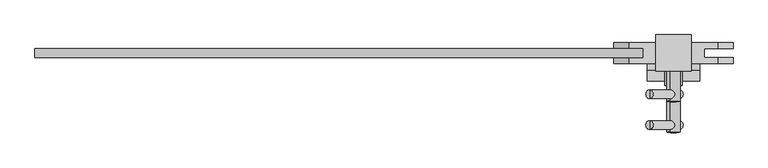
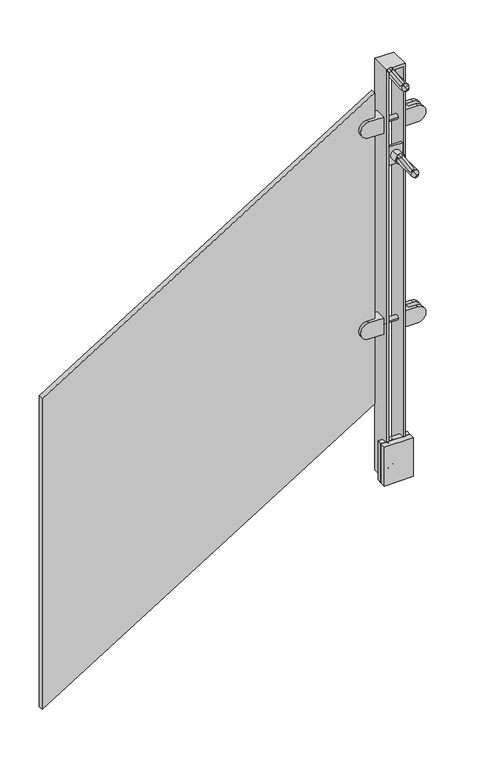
"""IFC4 building model written with IfcOpenShell, lengths in millimetres: proxy geometry, LIVERS_ICN - Glass Panel : LIVERS_ICN - Glass Panel."""

from ifc_helpers import new_model, si_unit, point, frame, origin, place, context, project, spatial, polyline, circle_curve, ellipse_curve, trimmed, outline, extrude, faceted_brep, source, transform, mapped, element, save
from ifc_brep_helpers import plane_surface, cylinder_surface, revolved_surface, advanced_brep


def building_element_proxy_ea71b500(model_context):
    return source(origin(), model_context, "Body", "SolidModel", [
        advanced_brep(
        [(1024.7594353, 60.3249609, 1242.0793507), (1031.4894099, 60.3249609, 1231.3091399), (1038.2193846, 60.3249609, 1220.5389291), (1024.7594353, 38.0999609, 1242.0793507), (1038.2193846, 38.0999609, 1220.5389291), (1031.4894099, 38.0999609, 1231.3091399)],
        [
            (0, 1),
            (1, 2),
            (2, 0, circle_curve(frame((1031.4894099, 60.3249609, 1231.3091399), z_axis=(0.0, 1.0, 0.0), x_axis=(0.5299192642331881, 0.0, -0.8480480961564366)), 12.7)),
            (0, 2, circle_curve(frame((1031.4894099, 60.3249609, 1231.3091399), z_axis=(0.0, 1.0, 0.0), x_axis=(0.5299192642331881, 0.0, -0.8480480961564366)), 12.7)),
            (3, 0),
            (2, 4),
            (4, 3, circle_curve(frame((1031.4894099, 38.0999609, 1231.3091399), z_axis=(0.0, 1.0, 0.0), x_axis=(0.5299192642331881, 0.0, -0.8480480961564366)), 12.7)),
            (3, 4, circle_curve(frame((1031.4894099, 38.0999609, 1231.3091399), z_axis=(0.0, 1.0, 0.0), x_axis=(0.5299192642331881, 0.0, -0.8480480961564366)), 12.7)),
            (5, 3),
            (4, 5),
        ],
        [
            plane_surface(frame((1031.4894099, 60.3249609, 1231.3091399), z_axis=(0.0, 1.0000000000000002, 0.0), x_axis=(0.5299192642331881, 0.0, -0.8480480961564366))),
            cylinder_surface(frame((1031.4894099, 69.3828283, 1231.3091399), z_axis=(0.0, -1.0, 0.0), x_axis=(0.5299192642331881, 0.0, -0.8480480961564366)), 12.7),
            plane_surface(frame((1031.4894099, 38.0999609, 1231.3091399), z_axis=(0.0, -1.0000000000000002, 0.0), x_axis=(0.5299192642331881, 0.0, -0.8480480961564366))),
        ],
        [
            (0, [[1, 2, 3]]),
            (0, [[-2, -1, 4]]),
            (1, [[5, -3, 6, 7]]),
            (1, [[-6, -4, -5, 8]]),
            (2, [[9, -7, 10]]),
            (2, [[-10, -8, -9]]),
        ],
    ),
        advanced_brep(
        [(997.2217397, -25.4004131, 1286.1488758), (997.2217397, -19.0504161, 1286.1488758), (997.2217397, -12.7004191, 1286.1488758), (1039.825165, -25.4004131, 1217.9691433), (1039.825165, -12.7004191, 1217.9691433), (1039.825165, -19.0504161, 1217.9691433)],
        [
            (0, 1),
            (1, 2),
            (2, 0, circle_curve(frame((997.2217397, -19.0504161, 1286.1488758), z_axis=(-0.5299192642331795, 0.0, 0.848048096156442), x_axis=(0.0, 1.0, 0.0)), 6.349997)),
            (0, 2, circle_curve(frame((997.2217397, -19.0504161, 1286.1488758), z_axis=(-0.5299192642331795, 0.0, 0.848048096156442), x_axis=(0.0, 1.0, 0.0)), 6.349997)),
            (3, 0),
            (2, 4),
            (4, 3, circle_curve(frame((1039.825165, -19.0504161, 1217.9691433), z_axis=(-0.5299192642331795, 0.0, 0.848048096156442), x_axis=(0.0, 1.0, 0.0)), 6.349997)),
            (3, 4, circle_curve(frame((1039.825165, -19.0504161, 1217.9691433), z_axis=(-0.5299192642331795, 0.0, 0.848048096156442), x_axis=(0.0, 1.0, 0.0)), 6.349997)),
            (5, 3),
            (4, 5),
        ],
        [
            plane_surface(frame((997.2217397, -19.0504161, 1286.1488758), z_axis=(-0.5299192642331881, 0.0, 0.8480480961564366), x_axis=(0.0, 1.0, 0.0))),
            cylinder_surface(frame((989.8818243, -19.0504161, 1297.8951959), z_axis=(0.5299192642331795, 0.0, -0.848048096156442), x_axis=(0.0, 1.0, 0.0)), 6.349997),
            plane_surface(frame((1039.825165, -19.0504161, 1217.9691433), z_axis=(0.5299192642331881, 0.0, -0.8480480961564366), x_axis=(0.0, 1.0, 0.0))),
        ],
        [
            (0, [[1, 2, 3]]),
            (0, [[-2, -1, 4]]),
            (1, [[5, -3, 6, 7]]),
            (1, [[-6, -4, -5, 8]]),
            (2, [[9, -7, 10]]),
            (2, [[-10, -8, -9]]),
        ],
    ),
        advanced_brep(
        [(1031.4894099, -30.1375464, 1231.3091399), (1026.4419289, -28.5500464, 1239.386798), (1036.5368909, -28.5500464, 1223.2314818), (1026.4419289, 38.0999609, 1239.386798), (1031.4894099, 38.0999609, 1231.3091399), (1036.5368909, 38.0999609, 1223.2314818)],
        [
            (0, 1, circle_curve(frame((1031.4894099, -0.7687964, 1231.3091399), z_axis=(-0.848048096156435, 0.0, -0.5299192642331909), x_axis=(0.0, 1.0, 0.0)), 29.36875)),
            (1, 2, circle_curve(frame((1031.4894099, -28.5500464, 1231.3091399), z_axis=(0.0, -1.0, 0.0), x_axis=(0.5299192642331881, 0.0, -0.8480480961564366)), 9.525)),
            (2, 0, circle_curve(frame((1031.4894099, -0.7687964, 1231.3091399), z_axis=(-0.8480480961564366, 0.0, -0.5299192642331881), x_axis=(0.0, 1.0, 0.0)), 29.36875)),
            (2, 1, circle_curve(frame((1031.4894099, -28.5500464, 1231.3091399), z_axis=(0.0, -1.0, 0.0), x_axis=(0.5299192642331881, 0.0, -0.8480480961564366)), 9.525)),
            (3, 4),
            (4, 5),
            (5, 3, circle_curve(frame((1031.4894099, 38.0999609, 1231.3091399), z_axis=(0.0, 1.0, 0.0), x_axis=(0.5299192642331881, 0.0, -0.8480480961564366)), 9.525)),
            (3, 5, circle_curve(frame((1031.4894099, 38.0999609, 1231.3091399), z_axis=(0.0, 1.0, 0.0), x_axis=(0.5299192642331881, 0.0, -0.8480480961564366)), 9.525)),
            (1, 3),
            (5, 2),
        ],
        [
            revolved_surface(trimmed(ellipse_curve(frame((1031.4894099, -0.7687964, 1231.3091399), z_axis=(-0.8480480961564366, 0.0, -0.5299192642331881), x_axis=(0.0, 1.0, 0.0)), 29.36875, 29.36875), [point((1036.5368909, -28.5500464, 1223.2314818))], [point((1031.4894099, -30.1375464, 1231.3091399))], True, "CARTESIAN"), (1031.4894099, 30.3031204, 1231.3091399), (0.0, -1.0, 0.0)),
            plane_surface(frame((1031.4894099, 38.0999609, 1231.3091399), z_axis=(0.0, 1.0000000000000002, 0.0), x_axis=(0.5299192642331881, 0.0, -0.8480480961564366))),
            cylinder_surface(frame((1031.4894099, 30.3031204, 1231.3091399), z_axis=(0.0, -1.0, 0.0), x_axis=(0.5299192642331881, 0.0, -0.8480480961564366)), 9.525),
        ],
        [
            (0, [[1, 2, 3]]),
            (0, [[-3, 4, -1]]),
            (1, [[5, 6, 7]]),
            (1, [[-6, -5, 8]]),
            (2, [[9, -7, 10, -2]]),
            (2, [[-10, -8, -9, -4]]),
        ],
    ),
        extrude(outline(polyline([(1050.5394099, 66.6749609), (1050.5394099, 60.3249609), (1012.4394099, 60.3249609), (1012.4394099, 66.6749609), (1050.5394099, 66.6749609)])), frame((0.0, 0.0, 1205.9091399), z_axis=(0.0, 0.0, 1.0), x_axis=(1.0, 0.0, 0.0)), (0.0, 0.0, 1.0), 50.8),
        advanced_brep(
        [(1024.7594353, 15.875, 1029.7197155), (1031.4894099, 15.875, 1018.9495047), (1038.2193846, 15.875, 1008.1792939), (1024.7594353, -6.35, 1029.7197155), (1038.2193846, -6.35, 1008.1792939), (1031.4894099, -6.35, 1018.9495047)],
        [
            (0, 1),
            (1, 2),
            (2, 0, circle_curve(frame((1031.4894099, 15.875, 1018.9495047), z_axis=(0.0, 1.0, 0.0), x_axis=(0.5299192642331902, 0.0, -0.8480480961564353)), 12.7)),
            (0, 2, circle_curve(frame((1031.4894099, 15.875, 1018.9495047), z_axis=(0.0, 1.0, 0.0), x_axis=(0.5299192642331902, 0.0, -0.8480480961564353)), 12.7)),
            (3, 0),
            (2, 4),
            (4, 3, circle_curve(frame((1031.4894099, -6.35, 1018.9495047), z_axis=(0.0, 1.0, 0.0), x_axis=(0.5299192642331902, 0.0, -0.8480480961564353)), 12.7)),
            (3, 4, circle_curve(frame((1031.4894099, -6.35, 1018.9495047), z_axis=(0.0, 1.0, 0.0), x_axis=(0.5299192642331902, 0.0, -0.8480480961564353)), 12.7)),
            (5, 3),
            (4, 5),
        ],
        [
            plane_surface(frame((1031.4894099, 15.875, 1018.9495047), z_axis=(0.0, 1.0000000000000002, 0.0), x_axis=(0.5299192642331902, 0.0, -0.8480480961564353))),
            cylinder_surface(frame((1031.4894099, 24.9328674, 1018.9495047), z_axis=(0.0, -1.0, 0.0), x_axis=(0.5299192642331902, 0.0, -0.8480480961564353)), 12.7),
            plane_surface(frame((1031.4894099, -6.35, 1018.9495047), z_axis=(0.0, -1.0000000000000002, 0.0), x_axis=(0.5299192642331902, 0.0, -0.8480480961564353))),
        ],
        [
            (0, [[1, 2, 3]]),
            (0, [[-2, -1, 4]]),
            (1, [[5, -3, 6, 7]]),
            (1, [[-6, -4, -5, 8]]),
            (2, [[9, -7, 10]]),
            (2, [[-10, -8, -9]]),
        ],
    ),
        advanced_brep(
        [(997.2217397, -69.850374, 1073.7892407), (997.2217397, -63.500377, 1073.7892407), (997.2217397, -57.15038, 1073.7892407), (1039.825165, -69.850374, 1005.6095081), (1039.825165, -57.15038, 1005.6095081), (1039.825165, -63.500377, 1005.6095081)],
        [
            (0, 1),
            (1, 2),
            (2, 0, circle_curve(frame((997.2217397, -63.500377, 1073.7892407), z_axis=(-0.5299192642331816, 0.0, 0.8480480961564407), x_axis=(0.0, 1.0, 0.0)), 6.349997)),
            (0, 2, circle_curve(frame((997.2217397, -63.500377, 1073.7892407), z_axis=(-0.5299192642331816, 0.0, 0.8480480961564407), x_axis=(0.0, 1.0, 0.0)), 6.349997)),
            (3, 0),
            (2, 4),
            (4, 3, circle_curve(frame((1039.825165, -63.500377, 1005.6095081), z_axis=(-0.5299192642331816, 0.0, 0.8480480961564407), x_axis=(0.0, 1.0, 0.0)), 6.349997)),
            (3, 4, circle_curve(frame((1039.825165, -63.500377, 1005.6095081), z_axis=(-0.5299192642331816, 0.0, 0.8480480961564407), x_axis=(0.0, 1.0, 0.0)), 6.349997)),
            (5, 3),
            (4, 5),
        ],
        [
            plane_surface(frame((997.2217397, -63.500377, 1073.7892407), z_axis=(-0.5299192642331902, 0.0, 0.8480480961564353), x_axis=(0.0, 1.0, 0.0))),
            cylinder_surface(frame((989.8818243, -63.500377, 1085.5355607), z_axis=(0.5299192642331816, 0.0, -0.8480480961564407), x_axis=(0.0, 1.0, 0.0)), 6.349997),
            plane_surface(frame((1039.825165, -63.500377, 1005.6095081), z_axis=(0.5299192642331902, 0.0, -0.8480480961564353), x_axis=(0.0, 1.0, 0.0))),
        ],
        [
            (0, [[1, 2, 3]]),
            (0, [[-2, -1, 4]]),
            (1, [[5, -3, 6, 7]]),
            (1, [[-6, -4, -5, 8]]),
            (2, [[9, -7, 10]]),
            (2, [[-10, -8, -9]]),
        ],
    ),
        advanced_brep(
        [(1031.4894099, -74.5875073, 1018.9495047), (1026.4419289, -73.0000073, 1027.0271628), (1036.5368909, -73.0000073, 1010.8718466), (1026.4419289, -6.35, 1027.0271628), (1031.4894099, -6.35, 1018.9495047), (1036.5368909, -6.35, 1010.8718466)],
        [
            (0, 1, circle_curve(frame((1031.4894099, -45.2187573, 1018.9495047), z_axis=(-0.8480480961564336, 0.0, -0.529919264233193), x_axis=(0.0, 1.0, 0.0)), 29.36875)),
            (1, 2, circle_curve(frame((1031.4894099, -73.0000073, 1018.9495047), z_axis=(0.0, -1.0, 0.0), x_axis=(0.5299192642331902, 0.0, -0.8480480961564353)), 9.525)),
            (2, 0, circle_curve(frame((1031.4894099, -45.2187573, 1018.9495047), z_axis=(-0.8480480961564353, 0.0, -0.5299192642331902), x_axis=(0.0, 1.0, 0.0)), 29.36875)),
            (2, 1, circle_curve(frame((1031.4894099, -73.0000073, 1018.9495047), z_axis=(0.0, -1.0, 0.0), x_axis=(0.5299192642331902, 0.0, -0.8480480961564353)), 9.525)),
            (3, 4),
            (4, 5),
            (5, 3, circle_curve(frame((1031.4894099, -6.35, 1018.9495047), z_axis=(0.0, 1.0, 0.0), x_axis=(0.5299192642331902, 0.0, -0.8480480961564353)), 9.525)),
            (3, 5, circle_curve(frame((1031.4894099, -6.35, 1018.9495047), z_axis=(0.0, 1.0, 0.0), x_axis=(0.5299192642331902, 0.0, -0.8480480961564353)), 9.525)),
            (1, 3),
            (5, 2),
        ],
        [
            revolved_surface(trimmed(ellipse_curve(frame((1031.4894099, -45.2187573, 1018.9495047), z_axis=(-0.8480480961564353, 0.0, -0.5299192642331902), x_axis=(0.0, 1.0, 0.0)), 29.36875, 29.36875), [point((1036.5368909, -73.0000073, 1010.8718466))], [point((1031.4894099, -74.5875073, 1018.9495047))], True, "CARTESIAN"), (1031.4894099, -14.1468405, 1018.9495047), (0.0, -1.0, 0.0)),
            plane_surface(frame((1031.4894099, -6.35, 1018.9495047), z_axis=(0.0, 1.0000000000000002, 0.0), x_axis=(0.5299192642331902, 0.0, -0.8480480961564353))),
            cylinder_surface(frame((1031.4894099, -14.1468405, 1018.9495047), z_axis=(0.0, -1.0, 0.0), x_axis=(0.5299192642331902, 0.0, -0.8480480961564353)), 9.525),
        ],
        [
            (0, [[1, 2, 3]]),
            (0, [[-3, 4, -1]]),
            (1, [[5, 6, 7]]),
            (1, [[-6, -5, 8]]),
            (2, [[9, -7, 10, -2]]),
            (2, [[-10, -8, -9, -4]]),
        ],
    ),
        extrude(outline(polyline([(1050.5394099, 22.225), (1050.5394099, 15.875), (1012.4394099, 15.875), (1012.4394099, 22.225), (1050.5394099, 22.225)])), frame((0.0, 0.0, 993.5495047), z_axis=(0.0, 0.0, 1.0), x_axis=(1.0, 0.0, 0.0)), (0.0, 0.0, 1.0), 50.8),
        advanced_brep(
        [(1006.0894099, 55.5624457, 566.3280045), (1006.0894099, 25.3999457, 566.3280045), (1006.0894099, 25.3999457, 521.8780045), (1006.0894099, 55.5624457, 521.8780045), (967.8883159, 55.5624457, 521.8780045), (967.8883159, 55.5624457, 566.3280045), (967.8883159, 25.3999457, 521.8780045), (967.8883159, 34.1311957, 521.8780045), (987.2174907, 34.1311957, 521.8780045), (987.2174907, 46.8311957, 521.8780045), (967.8883159, 46.8311957, 521.8780045), (967.8883159, 25.3999457, 566.3280045), (967.8883159, 46.8311957, 566.3280045), (987.2174907, 46.8311957, 566.3280045), (987.2174907, 34.1311957, 566.3280045), (967.8883159, 34.1311957, 566.3280045)],
        [
            (0, 1),
            (1, 2),
            (2, 3),
            (3, 0),
            (3, 4),
            (4, 5, circle_curve(frame((967.8883159, 55.5624457, 544.1030045), z_axis=(0.0, 1.0, 0.0), x_axis=(0.0, 0.0, -1.0)), 22.225)),
            (5, 0),
            (2, 6),
            (6, 7),
            (7, 8),
            (8, 9),
            (9, 10),
            (10, 4),
            (1, 11),
            (11, 6, circle_curve(frame((967.8883159, 25.3999457, 544.1030045), z_axis=(0.0, -1.0, 0.0), x_axis=(0.0, 0.0, -1.0)), 22.225)),
            (5, 12),
            (12, 13),
            (13, 14),
            (14, 15),
            (15, 11),
            (13, 9),
            (8, 14),
            (12, 10, circle_curve(frame((967.8883159, 46.8311957, 544.1030045), z_axis=(0.0, -1.0, 0.0), x_axis=(0.0, 0.0, -1.0)), 22.225)),
            (7, 15, circle_curve(frame((967.8883159, 34.1311957, 544.1030045), z_axis=(0.0, 1.0, 0.0), x_axis=(0.0, 0.0, -1.0)), 22.225)),
        ],
        [
            plane_surface(frame((1006.0894099, 55.5624457, 521.8780045), z_axis=(1.0, 0.0, 0.0), x_axis=(0.0, 0.0, 1.0))),
            plane_surface(frame((945.5863292, 55.5624457, 566.3280045), z_axis=(0.0, 1.0, 0.0), x_axis=(1.0, 0.0, 0.0))),
            plane_surface(frame((945.5863292, 55.5624457, 521.8780045), z_axis=(0.0, 0.0, -1.0), x_axis=(1.0, 0.0, 0.0))),
            plane_surface(frame((945.5863292, 25.3999457, 521.8780045), z_axis=(0.0, -1.0, 0.0), x_axis=(1.0, 0.0, 0.0))),
            plane_surface(frame((945.5863292, 25.3999457, 566.3280045), z_axis=(0.0, 0.0, 1.0), x_axis=(1.0, 0.0, 0.0))),
            plane_surface(frame((987.2174907, 46.8311957, 521.8780045), z_axis=(-1.0, 0.0, 0.0), x_axis=(0.0, 0.0, 1.0))),
            plane_surface(frame((945.5863292, 46.8311957, 566.3280045), z_axis=(0.0, -1.0, 0.0), x_axis=(1.0, 0.0, 0.0))),
            plane_surface(frame((945.5863292, 34.1311957, 521.8780045), z_axis=(0.0, 1.0, 0.0), x_axis=(1.0, 0.0, 0.0))),
            cylinder_surface(frame((967.8883159, 55.5624457, 544.1030045), z_axis=(0.0, 1.0, 0.0), x_axis=(0.0, 0.0, -1.0)), 22.225),
        ],
        [
            (0, [[1, 2, 3, 4]]),
            (1, [[-4, 5, 6, 7]]),
            (2, [[-3, 8, 9, 10, 11, 12, 13, -5]]),
            (3, [[-2, 14, 15, -8]]),
            (4, [[-1, -7, 16, 17, 18, 19, 20, -14]]),
            (5, [[21, -11, 22, -18]]),
            (6, [[-21, -17, 23, -12]]),
            (7, [[-22, -10, 24, -19]]),
            (8, [[-6, -13, -23, -16]]),
            (8, [[-9, -15, -20, -24]]),
        ],
    ),
        advanced_brep(
        [(1056.8894099, 55.5624457, 566.3280045), (1056.8894099, 55.5624457, 521.8780045), (1056.8894099, 25.3999457, 521.8780045), (1056.8894099, 25.3999457, 566.3280045), (1095.0905039, 55.5624457, 566.3280045), (1095.0905039, 55.5624457, 521.8780045), (1095.0905039, 46.8311957, 521.8780045), (1075.7613292, 46.8311957, 521.8780045), (1075.7613292, 34.1311957, 521.8780045), (1095.0905039, 34.1311957, 521.8780045), (1095.0905039, 25.3999457, 521.8780045), (1095.0905039, 25.3999457, 566.3280045), (1095.0905039, 34.1311957, 566.3280045), (1075.7613292, 34.1311957, 566.3280045), (1075.7613292, 46.8311957, 566.3280045), (1095.0905039, 46.8311957, 566.3280045)],
        [
            (0, 1),
            (1, 2),
            (2, 3),
            (3, 0),
            (0, 4),
            (4, 5, circle_curve(frame((1095.0905039, 55.5624457, 544.1030045), z_axis=(0.0, 1.0, 0.0), x_axis=(0.0, 0.0, -1.0)), 22.225)),
            (5, 1),
            (5, 6),
            (6, 7),
            (7, 8),
            (8, 9),
            (9, 10),
            (10, 2),
            (10, 11, circle_curve(frame((1095.0905039, 25.3999457, 544.1030045), z_axis=(0.0, -1.0, 0.0), x_axis=(0.0, 0.0, -1.0)), 22.225)),
            (11, 3),
            (11, 12),
            (12, 13),
            (13, 14),
            (14, 15),
            (15, 4),
            (13, 8),
            (7, 14),
            (6, 15, circle_curve(frame((1095.0905039, 46.8311957, 544.1030045), z_axis=(0.0, -1.0, 0.0), x_axis=(0.0, 0.0, -1.0)), 22.225)),
            (12, 9, circle_curve(frame((1095.0905039, 34.1311957, 544.1030045), z_axis=(0.0, 1.0, 0.0), x_axis=(0.0, 0.0, -1.0)), 22.225)),
        ],
        [
            plane_surface(frame((1056.8894099, 55.5624457, 521.8780045), z_axis=(-1.0, 0.0, 0.0), x_axis=(0.0, 0.0, 1.0))),
            plane_surface(frame((1117.3924907, 55.5624457, 566.3280045), z_axis=(0.0, 1.0, 0.0), x_axis=(-1.0, 0.0, 0.0))),
            plane_surface(frame((1117.3924907, 55.5624457, 521.8780045), z_axis=(0.0, 0.0, -1.0), x_axis=(-1.0, 0.0, 0.0))),
            plane_surface(frame((1117.3924907, 25.3999457, 521.8780045), z_axis=(0.0, -1.0, 0.0), x_axis=(-1.0, 0.0, 0.0))),
            plane_surface(frame((1117.3924907, 25.3999457, 566.3280045), z_axis=(0.0, 0.0, 1.0), x_axis=(-1.0, 0.0, 0.0))),
            plane_surface(frame((1075.7613292, 46.8311957, 521.8780045), z_axis=(1.0, 0.0, 0.0), x_axis=(0.0, 0.0, 1.0))),
            plane_surface(frame((1117.3924907, 46.8311957, 566.3280045), z_axis=(0.0, -1.0, 0.0), x_axis=(-1.0, 0.0, 0.0))),
            plane_surface(frame((1117.3924907, 34.1311957, 521.8780045), z_axis=(0.0, 1.0, 0.0), x_axis=(-1.0, 0.0, 0.0))),
            cylinder_surface(frame((1095.0905039, 55.5624457, 544.1030045), z_axis=(0.0, 1.0, 0.0), x_axis=(0.0, 0.0, -1.0)), 22.225),
        ],
        [
            (0, [[1, 2, 3, 4]]),
            (1, [[5, 6, 7, -1]]),
            (2, [[-7, 8, 9, 10, 11, 12, 13, -2]]),
            (3, [[-13, 14, 15, -3]]),
            (4, [[-15, 16, 17, 18, 19, 20, -5, -4]]),
            (5, [[-18, 21, -10, 22]]),
            (6, [[-9, 23, -19, -22]]),
            (7, [[-17, 24, -11, -21]]),
            (8, [[-20, -23, -8, -6]]),
            (8, [[-24, -16, -14, -12]]),
        ],
    ),
        advanced_brep(
        [(1006.0894099, 55.5624457, 1125.1280045), (1006.0894099, 25.3999457, 1125.1280045), (1006.0894099, 25.3999457, 1080.6780045), (1006.0894099, 55.5624457, 1080.6780045), (967.8883159, 55.5624457, 1080.6780045), (967.8883159, 55.5624457, 1125.1280045), (967.8883159, 25.3999457, 1080.6780045), (967.8883159, 34.1311957, 1080.6780045), (987.2174907, 34.1311957, 1080.6780045), (987.2174907, 46.8311957, 1080.6780045), (967.8883159, 46.8311957, 1080.6780045), (967.8883159, 25.3999457, 1125.1280045), (967.8883159, 46.8311957, 1125.1280045), (987.2174907, 46.8311957, 1125.1280045), (987.2174907, 34.1311957, 1125.1280045), (967.8883159, 34.1311957, 1125.1280045)],
        [
            (0, 1),
            (1, 2),
            (2, 3),
            (3, 0),
            (3, 4),
            (4, 5, circle_curve(frame((967.8883159, 55.5624457, 1102.9030045), z_axis=(0.0, 1.0, 0.0), x_axis=(0.0, 0.0, -1.0)), 22.225)),
            (5, 0),
            (2, 6),
            (6, 7),
            (7, 8),
            (8, 9),
            (9, 10),
            (10, 4),
            (1, 11),
            (11, 6, circle_curve(frame((967.8883159, 25.3999457, 1102.9030045), z_axis=(0.0, -1.0, 0.0), x_axis=(0.0, 0.0, -1.0)), 22.225)),
            (5, 12),
            (12, 13),
            (13, 14),
            (14, 15),
            (15, 11),
            (13, 9),
            (8, 14),
            (12, 10, circle_curve(frame((967.8883159, 46.8311957, 1102.9030045), z_axis=(0.0, -1.0, 0.0), x_axis=(0.0, 0.0, -1.0)), 22.225)),
            (7, 15, circle_curve(frame((967.8883159, 34.1311957, 1102.9030045), z_axis=(0.0, 1.0, 0.0), x_axis=(0.0, 0.0, -1.0)), 22.225)),
        ],
        [
            plane_surface(frame((1006.0894099, 55.5624457, 1080.6780045), z_axis=(1.0, 0.0, 0.0), x_axis=(0.0, 0.0, 1.0))),
            plane_surface(frame((945.5863292, 55.5624457, 1125.1280045), z_axis=(0.0, 1.0, 0.0), x_axis=(1.0, 0.0, 0.0))),
            plane_surface(frame((945.5863292, 55.5624457, 1080.6780045), z_axis=(0.0, 0.0, -1.0), x_axis=(1.0, 0.0, 0.0))),
            plane_surface(frame((945.5863292, 25.3999457, 1080.6780045), z_axis=(0.0, -1.0, 0.0), x_axis=(1.0, 0.0, 0.0))),
            plane_surface(frame((945.5863292, 25.3999457, 1125.1280045), z_axis=(0.0, 0.0, 1.0), x_axis=(1.0, 0.0, 0.0))),
            plane_surface(frame((987.2174907, 46.8311957, 1080.6780045), z_axis=(-1.0, 0.0, 0.0), x_axis=(0.0, 0.0, 1.0))),
            plane_surface(frame((945.5863292, 46.8311957, 1125.1280045), z_axis=(0.0, -1.0, 0.0), x_axis=(1.0, 0.0, 0.0))),
            plane_surface(frame((945.5863292, 34.1311957, 1080.6780045), z_axis=(0.0, 1.0, 0.0), x_axis=(1.0, 0.0, 0.0))),
            cylinder_surface(frame((967.8883159, 55.5624457, 1102.9030045), z_axis=(0.0, 1.0, 0.0), x_axis=(0.0, 0.0, -1.0)), 22.225),
        ],
        [
            (0, [[1, 2, 3, 4]]),
            (1, [[-4, 5, 6, 7]]),
            (2, [[-3, 8, 9, 10, 11, 12, 13, -5]]),
            (3, [[-2, 14, 15, -8]]),
            (4, [[-1, -7, 16, 17, 18, 19, 20, -14]]),
            (5, [[21, -11, 22, -18]]),
            (6, [[-21, -17, 23, -12]]),
            (7, [[-22, -10, 24, -19]]),
            (8, [[-6, -13, -23, -16]]),
            (8, [[-9, -15, -20, -24]]),
        ],
    ),
        advanced_brep(
        [(1056.8894099, 55.5624457, 1125.1280045), (1056.8894099, 55.5624457, 1080.6780045), (1056.8894099, 25.3999457, 1080.6780045), (1056.8894099, 25.3999457, 1125.1280045), (1095.0905039, 55.5624457, 1125.1280045), (1095.0905039, 55.5624457, 1080.6780045), (1095.0905039, 46.8311957, 1080.6780045), (1075.7613292, 46.8311957, 1080.6780045), (1075.7613292, 34.1311957, 1080.6780045), (1095.0905039, 34.1311957, 1080.6780045), (1095.0905039, 25.3999457, 1080.6780045), (1095.0905039, 25.3999457, 1125.1280045), (1095.0905039, 34.1311957, 1125.1280045), (1075.7613292, 34.1311957, 1125.1280045), (1075.7613292, 46.8311957, 1125.1280045), (1095.0905039, 46.8311957, 1125.1280045)],
        [
            (0, 1),
            (1, 2),
            (2, 3),
            (3, 0),
            (0, 4),
            (4, 5, circle_curve(frame((1095.0905039, 55.5624457, 1102.9030045), z_axis=(0.0, 1.0, 0.0), x_axis=(0.0, 0.0, -1.0)), 22.225)),
            (5, 1),
            (5, 6),
            (6, 7),
            (7, 8),
            (8, 9),
            (9, 10),
            (10, 2),
            (10, 11, circle_curve(frame((1095.0905039, 25.3999457, 1102.9030045), z_axis=(0.0, -1.0, 0.0), x_axis=(0.0, 0.0, -1.0)), 22.225)),
            (11, 3),
            (11, 12),
            (12, 13),
            (13, 14),
            (14, 15),
            (15, 4),
            (13, 8),
            (7, 14),
            (6, 15, circle_curve(frame((1095.0905039, 46.8311957, 1102.9030045), z_axis=(0.0, -1.0, 0.0), x_axis=(0.0, 0.0, -1.0)), 22.225)),
            (12, 9, circle_curve(frame((1095.0905039, 34.1311957, 1102.9030045), z_axis=(0.0, 1.0, 0.0), x_axis=(0.0, 0.0, -1.0)), 22.225)),
        ],
        [
            plane_surface(frame((1056.8894099, 55.5624457, 1080.6780045), z_axis=(-1.0, 0.0, 0.0), x_axis=(0.0, 0.0, 1.0))),
            plane_surface(frame((1117.3924907, 55.5624457, 1125.1280045), z_axis=(0.0, 1.0, 0.0), x_axis=(-1.0, 0.0, 0.0))),
            plane_surface(frame((1117.3924907, 55.5624457, 1080.6780045), z_axis=(0.0, 0.0, -1.0), x_axis=(-1.0, 0.0, 0.0))),
            plane_surface(frame((1117.3924907, 25.3999457, 1080.6780045), z_axis=(0.0, -1.0, 0.0), x_axis=(-1.0, 0.0, 0.0))),
            plane_surface(frame((1117.3924907, 25.3999457, 1125.1280045), z_axis=(0.0, 0.0, 1.0), x_axis=(-1.0, 0.0, 0.0))),
            plane_surface(frame((1075.7613292, 46.8311957, 1080.6780045), z_axis=(1.0, 0.0, 0.0), x_axis=(0.0, 0.0, 1.0))),
            plane_surface(frame((1117.3924907, 46.8311957, 1125.1280045), z_axis=(0.0, -1.0, 0.0), x_axis=(-1.0, 0.0, 0.0))),
            plane_surface(frame((1117.3924907, 34.1311957, 1080.6780045), z_axis=(0.0, 1.0, 0.0), x_axis=(-1.0, 0.0, 0.0))),
            cylinder_surface(frame((1095.0905039, 55.5624457, 1102.9030045), z_axis=(0.0, 1.0, 0.0), x_axis=(0.0, 0.0, -1.0)), 22.225),
        ],
        [
            (0, [[1, 2, 3, 4]]),
            (1, [[5, 6, 7, -1]]),
            (2, [[-7, 8, 9, 10, 11, 12, 13, -2]]),
            (3, [[-13, 14, 15, -3]]),
            (4, [[-15, 16, 17, 18, 19, 20, -5, -4]]),
            (5, [[-18, 21, -10, 22]]),
            (6, [[-9, 23, -19, -22]]),
            (7, [[-17, 24, -11, -21]]),
            (8, [[-20, -23, -8, -6]]),
            (8, [[-24, -16, -14, -12]]),
        ],
    ),
        advanced_brep(
        [(1031.4894099, 28.575, 127.4369711), (1031.4894099, 29.7562407, 127.4369711), (1031.4894099, 29.7562407, 149.6619822), (1031.4894099, 28.575, 149.6619822), (1031.4894099, 28.575, 138.5494767), (1031.4894099, 32.325, 132.9369711), (1031.4894099, 30.8816229, 138.5494767), (1031.4894099, 32.325, 144.1619822), (1031.4894099, 34.8740117, 132.9369711), (1031.4894099, 34.8740117, 144.1619822), (1031.4894099, 33.8500285, 129.9889647), (1031.4894099, 33.8500285, 147.1099886), (1031.4894099, 31.8562692, 128.2306888), (1031.4894099, 31.8562692, 148.8682645)],
        [
            (0, 1),
            (1, 2, circle_curve(frame((1031.4894099, 29.7562407, 138.5494767), z_axis=(0.0, -1.0, 0.0), x_axis=(0.0, 0.0, 1.0)), 11.1125056)),
            (2, 3),
            (3, 0, circle_curve(frame((1031.4894099, 28.575, 138.5494767), z_axis=(0.0, 1.0, 0.0), x_axis=(0.0, 0.0, 1.0)), 11.1125056)),
            (2, 1, circle_curve(frame((1031.4894099, 29.7562407, 138.5494767), z_axis=(0.0, -1.0, 0.0), x_axis=(0.0, 0.0, 1.0)), 11.1125056)),
            (0, 3, circle_curve(frame((1031.4894099, 28.575, 138.5494767), z_axis=(0.0, 1.0, 0.0), x_axis=(0.0, 0.0, 1.0)), 11.1125056)),
            (4, 0),
            (3, 4),
            (5, 6),
            (6, 7),
            (7, 5, circle_curve(frame((1031.4894099, 32.325, 138.5494767), z_axis=(0.0, 1.0, 0.0), x_axis=(0.0, 0.0, 1.0)), 5.6125056)),
            (5, 7, circle_curve(frame((1031.4894099, 32.325, 138.5494767), z_axis=(0.0, 1.0, 0.0), x_axis=(0.0, 0.0, 1.0)), 5.6125056)),
            (8, 5),
            (7, 9),
            (9, 8, circle_curve(frame((1031.4894099, 34.8740117, 138.5494767), z_axis=(0.0, 1.0, 0.0), x_axis=(0.0, 0.0, 1.0)), 5.6125056)),
            (8, 9, circle_curve(frame((1031.4894099, 34.8740117, 138.5494767), z_axis=(0.0, 1.0, 0.0), x_axis=(0.0, 0.0, 1.0)), 5.6125056)),
            (10, 8, circle_curve(frame((1031.4894099, 31.75, 132.370247), z_axis=(1.0, 0.0, 0.0), x_axis=(0.0, -1.0, 0.0)), 3.175)),
            (9, 11, circle_curve(frame((1031.4894099, 31.75, 144.7287063), z_axis=(1.0, 0.0, 0.0), x_axis=(0.0, -1.0, 0.0)), 3.175)),
            (11, 10, circle_curve(frame((1031.4894099, 33.8500285, 138.5494767), z_axis=(0.0, 1.0, 0.0), x_axis=(0.0, 0.0, 1.0)), 8.560512)),
            (10, 11, circle_curve(frame((1031.4894099, 33.8500285, 138.5494767), z_axis=(0.0, 1.0, 0.0), x_axis=(0.0, 0.0, 1.0)), 8.560512)),
            (12, 10),
            (11, 13),
            (13, 12, circle_curve(frame((1031.4894099, 31.8562692, 138.5494767), z_axis=(0.0, 1.0, 0.0), x_axis=(0.0, 0.0, 1.0)), 10.3187879)),
            (12, 13, circle_curve(frame((1031.4894099, 31.8562692, 138.5494767), z_axis=(0.0, 1.0, 0.0), x_axis=(0.0, 0.0, 1.0)), 10.3187879)),
            (1, 12, circle_curve(frame((1031.4894099, 29.7562407, 130.6119711), z_axis=(1.0, 0.0, 0.0), x_axis=(0.0, -1.0, 0.0)), 3.175)),
            (13, 2, circle_curve(frame((1031.4894099, 29.7562407, 146.4869822), z_axis=(1.0, 0.0, 0.0), x_axis=(0.0, -1.0, 0.0)), 3.175)),
        ],
        [
            cylinder_surface(frame((1031.4894099, 28.575, 138.5494767), z_axis=(0.0, -1.0, 0.0), x_axis=(0.0, 0.0, 1.0)), 11.1125056),
            plane_surface(frame((1031.4894099, 28.575, 138.5494767), z_axis=(0.0, -1.0, 0.0), x_axis=(0.0, 0.0, 1.0))),
            revolved_surface(polyline([(1031.4894099, 30.8816229, 138.5494767), (1031.4894099, 32.325, 144.1619822)]), (1031.4894099, 28.575, 138.5494767), (0.0, -1.0, 0.0)),
            revolved_surface(polyline([(1031.4894099, 32.325, 144.1619823), (1031.4894099, 34.8740117, 144.1619823)]), (1031.4894099, 28.575, 138.5494767), (0.0, -1.0, 0.0)),
            revolved_surface(trimmed(ellipse_curve(frame((1031.4894099, 31.75, 144.7287063), z_axis=(1.0, 0.0, 0.0), x_axis=(0.0, -1.0, 0.0)), 3.175, 3.175), [point((1031.4894099, 34.8740117, 144.1619822))], [point((1031.4894099, 33.8500285, 147.1099886))], True, "CARTESIAN"), (1031.4894099, 28.575, 138.5494767), (0.0, -1.0, 0.0)),
            revolved_surface(polyline([(1031.4894099, 33.8500285, 147.1099886), (1031.4894099, 31.8562692, 148.8682645)]), (1031.4894099, 28.575, 138.5494767), (0.0, -1.0, 0.0)),
            revolved_surface(trimmed(ellipse_curve(frame((1031.4894099, 29.7562407, 146.4869822), z_axis=(1.0, 0.0, 0.0), x_axis=(0.0, -1.0, 0.0)), 3.175, 3.175), [point((1031.4894099, 31.8562692, 148.8682645))], [point((1031.4894099, 29.7562407, 149.6619822))], True, "CARTESIAN"), (1031.4894099, 28.575, 138.5494767), (0.0, -1.0, 0.0)),
        ],
        [
            (0, [[1, 2, 3, 4]]),
            (0, [[-3, 5, -1, 6]]),
            (1, [[7, -4, 8]]),
            (1, [[-8, -6, -7]]),
            (2, [[9, 10, 11]]),
            (2, [[-10, -9, 12]]),
            (3, [[13, -11, 14, 15]]),
            (3, [[-14, -12, -13, 16]]),
            (4, [[17, -15, 18, 19]]),
            (4, [[-18, -16, -17, 20]]),
            (5, [[21, -19, 22, 23]]),
            (5, [[-22, -20, -21, 24]]),
            (6, [[25, -23, 26, -2]]),
            (6, [[-26, -24, -25, -5]]),
        ],
    ),
        advanced_brep(
        [(1031.4894099, 28.575, 197.2869711), (1031.4894099, 29.7562407, 197.2869711), (1031.4894099, 29.7562407, 219.5119822), (1031.4894099, 28.575, 219.5119822), (1031.4894099, 28.575, 208.3994767), (1031.4894099, 33.8500285, 199.8389647), (1031.4894099, 34.8740117, 202.7869711), (1031.4894099, 34.8740117, 214.0119822), (1031.4894099, 33.8500285, 216.9599886), (1031.4894099, 31.8562692, 198.0806888), (1031.4894099, 31.8562692, 218.7182645), (1031.4894099, 32.325, 202.7869711), (1031.4894099, 30.8816229, 208.3994767), (1031.4894099, 32.325, 214.0119822)],
        [
            (0, 1),
            (1, 2, circle_curve(frame((1031.4894099, 29.7562407, 208.3994767), z_axis=(0.0, -1.0, 0.0), x_axis=(0.0, 0.0, 1.0)), 11.1125056)),
            (2, 3),
            (3, 0, circle_curve(frame((1031.4894099, 28.575, 208.3994767), z_axis=(0.0, 1.0, 0.0), x_axis=(0.0, 0.0, 1.0)), 11.1125056)),
            (2, 1, circle_curve(frame((1031.4894099, 29.7562407, 208.3994767), z_axis=(0.0, -1.0, 0.0), x_axis=(0.0, 0.0, 1.0)), 11.1125056)),
            (0, 3, circle_curve(frame((1031.4894099, 28.575, 208.3994767), z_axis=(0.0, 1.0, 0.0), x_axis=(0.0, 0.0, 1.0)), 11.1125056)),
            (4, 0),
            (3, 4),
            (5, 6, circle_curve(frame((1031.4894099, 31.75, 202.220247), z_axis=(1.0, 0.0, 0.0), x_axis=(0.0, -1.0, 0.0)), 3.175)),
            (6, 7, circle_curve(frame((1031.4894099, 34.8740117, 208.3994767), z_axis=(0.0, -1.0, 0.0), x_axis=(0.0, 0.0, 1.0)), 5.6125056)),
            (7, 8, circle_curve(frame((1031.4894099, 31.75, 214.5787063), z_axis=(1.0, 0.0, 0.0), x_axis=(0.0, -1.0, 0.0)), 3.175)),
            (8, 5, circle_curve(frame((1031.4894099, 33.8500285, 208.3994767), z_axis=(0.0, 1.0, 0.0), x_axis=(0.0, 0.0, 1.0)), 8.560512)),
            (7, 6, circle_curve(frame((1031.4894099, 34.8740117, 208.3994767), z_axis=(0.0, -1.0, 0.0), x_axis=(0.0, 0.0, 1.0)), 5.6125056)),
            (5, 8, circle_curve(frame((1031.4894099, 33.8500285, 208.3994767), z_axis=(0.0, 1.0, 0.0), x_axis=(0.0, 0.0, 1.0)), 8.560512)),
            (9, 5),
            (8, 10),
            (10, 9, circle_curve(frame((1031.4894099, 31.8562692, 208.3994767), z_axis=(0.0, 1.0, 0.0), x_axis=(0.0, 0.0, 1.0)), 10.3187879)),
            (9, 10, circle_curve(frame((1031.4894099, 31.8562692, 208.3994767), z_axis=(0.0, 1.0, 0.0), x_axis=(0.0, 0.0, 1.0)), 10.3187879)),
            (1, 9, circle_curve(frame((1031.4894099, 29.7562407, 200.4619711), z_axis=(1.0, 0.0, 0.0), x_axis=(0.0, -1.0, 0.0)), 3.175)),
            (10, 2, circle_curve(frame((1031.4894099, 29.7562407, 216.3369822), z_axis=(1.0, 0.0, 0.0), x_axis=(0.0, -1.0, 0.0)), 3.175)),
            (11, 12),
            (12, 13),
            (13, 11, circle_curve(frame((1031.4894099, 32.325, 208.3994767), z_axis=(0.0, 1.0, 0.0), x_axis=(0.0, 0.0, 1.0)), 5.6125056)),
            (11, 13, circle_curve(frame((1031.4894099, 32.325, 208.3994767), z_axis=(0.0, 1.0, 0.0), x_axis=(0.0, 0.0, 1.0)), 5.6125056)),
            (6, 11),
            (13, 7),
        ],
        [
            cylinder_surface(frame((1031.4894099, 28.575, 208.3994767), z_axis=(0.0, -1.0, 0.0), x_axis=(0.0, 0.0, 1.0)), 11.1125056),
            plane_surface(frame((1031.4894099, 28.575, 208.3994767), z_axis=(0.0, -1.0, 0.0), x_axis=(0.0, 0.0, 1.0))),
            revolved_surface(trimmed(ellipse_curve(frame((1031.4894099, 31.75, 214.5787063), z_axis=(1.0, 0.0, 0.0), x_axis=(0.0, -1.0, 0.0)), 3.175, 3.175), [point((1031.4894099, 34.8740117, 214.0119822))], [point((1031.4894099, 33.8500285, 216.9599886))], True, "CARTESIAN"), (1031.4894099, 28.575, 208.3994767), (0.0, -1.0, 0.0)),
            revolved_surface(polyline([(1031.4894099, 33.8500285, 216.9599886), (1031.4894099, 31.8562692, 218.7182645)]), (1031.4894099, 28.575, 208.3994767), (0.0, -1.0, 0.0)),
            revolved_surface(trimmed(ellipse_curve(frame((1031.4894099, 29.7562407, 216.3369822), z_axis=(1.0, 0.0, 0.0), x_axis=(0.0, -1.0, 0.0)), 3.175, 3.175), [point((1031.4894099, 31.8562692, 218.7182645))], [point((1031.4894099, 29.7562407, 219.5119822))], True, "CARTESIAN"), (1031.4894099, 28.575, 208.3994767), (0.0, -1.0, 0.0)),
            revolved_surface(polyline([(1031.4894099, 30.8816229, 208.3994767), (1031.4894099, 32.325, 214.0119822)]), (1031.4894099, 28.575, 208.3994767), (0.0, -1.0, 0.0)),
            revolved_surface(polyline([(1031.4894099, 32.325, 214.0119823), (1031.4894099, 34.8740117, 214.0119823)]), (1031.4894099, 28.575, 208.3994767), (0.0, -1.0, 0.0)),
        ],
        [
            (0, [[1, 2, 3, 4]]),
            (0, [[-3, 5, -1, 6]]),
            (1, [[7, -4, 8]]),
            (1, [[-8, -6, -7]]),
            (2, [[9, 10, 11, 12]]),
            (2, [[-11, 13, -9, 14]]),
            (3, [[15, -12, 16, 17]]),
            (3, [[-16, -14, -15, 18]]),
            (4, [[19, -17, 20, -2]]),
            (4, [[-20, -18, -19, -5]]),
            (5, [[21, 22, 23]]),
            (5, [[-22, -21, 24]]),
            (6, [[25, -23, 26, -10]]),
            (6, [[-26, -24, -25, -13]]),
        ],
    ),
        faceted_brep([(1056.8894099, 14.2874305, 1263.0591399), (1056.8894099, 14.2874305, 119.4994767), (1056.8894099, 15.875, 119.4994767), (1056.8894099, 15.875, 227.4494767), (1056.8894099, 28.575, 227.4494767), (1056.8894099, 28.575, 119.4994767), (1056.8894099, 66.6749609, 119.4994767), (1056.8894099, 66.6749609, 1263.0591399), (1050.5394099, 66.6749609, 119.4994767), (1050.5394099, 28.575, 119.4994767), (1050.5394099, 28.575, 227.4494767), (1050.5394099, 15.875, 227.4494767), (1050.5394099, 15.875, 119.4994767), (1050.5394099, 14.2874305, 119.4994767), (1050.5394099, 14.2874305, 1256.7091399), (1050.5394099, 66.6749609, 1256.7091399), (993.3894099, 28.575, 119.4994767), (1006.0894099, 28.575, 119.4994767), (1006.0894099, 66.6749609, 119.4994767), (1012.4394099, 66.6749609, 119.4994767), (1012.4394099, 28.575, 119.4994767), (1069.5894099, 28.575, 119.4994767), (1069.5894099, 15.875, 119.4994767), (1012.4394099, 15.875, 119.4994767), (1012.4394099, 14.2874305, 119.4994767), (1006.0894099, 14.2874305, 119.4994767), (1006.0894099, 15.875, 119.4994767), (993.3894099, 15.875, 119.4994767), (1006.0894099, 14.2874305, 1263.0591399), (1012.4394099, 14.2874305, 1256.7091399), (1006.0894099, 66.6749609, 1263.0591399), (1012.4394099, 66.6749609, 1256.7091399), (1012.4394099, 15.875, 227.4494767), (1012.4394099, 28.575, 227.4494767), (1006.0894099, 28.575, 227.4494767), (1006.0894099, 15.875, 227.4494767), (1069.5894099, 28.575, 227.4494767), (993.3894099, 28.575, 227.4494767), (993.3894099, 15.875, 227.4494767), (1069.5894099, 15.875, 227.4494767)], [[[0, 1, 2, 3, 4, 5, 6, 7]], [[8, 9, 10, 11, 12, 13, 14, 15]], [[16, 17, 18, 19, 20, 9, 8, 6, 5, 21, 22, 2, 1, 13, 12, 23, 24, 25, 26, 27]], [[1, 0, 28, 25, 24, 29, 14, 13]], [[7, 30, 28, 0]], [[8, 15, 31, 19, 18, 30, 7, 6]], [[24, 23, 32, 33, 20, 19, 31, 29]], [[14, 29, 31, 15]], [[30, 18, 17, 34, 35, 26, 25, 28]], [[20, 33, 10, 9]], [[21, 5, 4, 36]], [[37, 34, 17, 16]], [[12, 11, 32, 23]], [[27, 26, 35, 38]], [[39, 3, 2, 22]], [[36, 39, 22, 21]], [[33, 32, 11, 10]], [[36, 4, 3, 39]], [[38, 35, 34, 37]], [[16, 27, 38, 37]]]),
        extrude(outline(polyline([(1069.5894099, 15.875), (1069.5894099, 0.0), (993.3894099, 0.0), (993.3894099, 15.875), (1069.5894099, 15.875)])), frame((0.0, 0.0, 119.4994767), z_axis=(0.0, 0.0, 1.0), x_axis=(1.0, 0.0, 0.0)), (0.0, 0.0, 1.0), 107.95),
        advanced_brep(
        [(1012.4394099, 41.2749421, 544.1030101), (1012.4394099, 47.5989918, 544.1030101), (1012.4394099, 34.9508924, 544.1030101), (1050.5533962, 47.5989918, 544.1030101), (1050.5533962, 41.2749421, 544.1030101), (1050.5533962, 34.9508924, 544.1030101)],
        [
            (0, 1),
            (1, 2, circle_curve(frame((1012.4394099, 41.2749421, 544.1030101), z_axis=(-1.0, 0.0, 0.0), x_axis=(0.0, -1.0, 0.0)), 6.3240497)),
            (2, 0),
            (2, 1, circle_curve(frame((1012.4394099, 41.2749421, 544.1030101), z_axis=(-1.0, 0.0, 0.0), x_axis=(0.0, -1.0, 0.0)), 6.3240497)),
            (3, 4),
            (4, 5),
            (5, 3, circle_curve(frame((1050.5533962, 41.2749421, 544.1030101), z_axis=(1.0, 0.0, 0.0), x_axis=(0.0, -1.0, 0.0)), 6.3240497)),
            (3, 5, circle_curve(frame((1050.5533962, 41.2749421, 544.1030101), z_axis=(1.0, 0.0, 0.0), x_axis=(0.0, -1.0, 0.0)), 6.3240497)),
            (1, 3),
            (5, 2),
        ],
        [
            plane_surface(frame((1012.4394099, 41.2749421, 544.1030101), z_axis=(-1.0, 0.0, 0.0), x_axis=(0.0, -1.0, 0.0))),
            plane_surface(frame((1050.5533962, 41.2749421, 544.1030101), z_axis=(1.0, 0.0, 0.0), x_axis=(0.0, -1.0, 0.0))),
            cylinder_surface(frame((1012.4394099, 41.2749421, 544.1030101), z_axis=(-1.0, 0.0, 0.0), x_axis=(0.0, -1.0, 0.0)), 6.3240497),
        ],
        [
            (0, [[1, 2, 3]]),
            (0, [[-3, 4, -1]]),
            (1, [[5, 6, 7]]),
            (1, [[-6, -5, 8]]),
            (2, [[9, -7, 10, -2]]),
            (2, [[-10, -8, -9, -4]]),
        ],
    ),
        advanced_brep(
        [(1012.4394099, 41.2749421, 1102.9030101), (1012.4394099, 47.5989918, 1102.9030101), (1012.4394099, 34.9508924, 1102.9030101), (1050.5533962, 47.5989918, 1102.9030101), (1050.5533962, 41.2749421, 1102.9030101), (1050.5533962, 34.9508924, 1102.9030101)],
        [
            (0, 1),
            (1, 2, circle_curve(frame((1012.4394099, 41.2749421, 1102.9030101), z_axis=(-1.0, 0.0, 0.0), x_axis=(0.0, -1.0, 0.0)), 6.3240497)),
            (2, 0),
            (2, 1, circle_curve(frame((1012.4394099, 41.2749421, 1102.9030101), z_axis=(-1.0, 0.0, 0.0), x_axis=(0.0, -1.0, 0.0)), 6.3240497)),
            (3, 4),
            (4, 5),
            (5, 3, circle_curve(frame((1050.5533962, 41.2749421, 1102.9030101), z_axis=(1.0, 0.0, 0.0), x_axis=(0.0, -1.0, 0.0)), 6.3240497)),
            (3, 5, circle_curve(frame((1050.5533962, 41.2749421, 1102.9030101), z_axis=(1.0, 0.0, 0.0), x_axis=(0.0, -1.0, 0.0)), 6.3240497)),
            (1, 3),
            (5, 2),
        ],
        [
            plane_surface(frame((1012.4394099, 41.2749421, 1102.9030101), z_axis=(-1.0, 0.0, 0.0), x_axis=(0.0, -1.0, 0.0))),
            plane_surface(frame((1050.5533962, 41.2749421, 1102.9030101), z_axis=(1.0, 0.0, 0.0), x_axis=(0.0, -1.0, 0.0))),
            cylinder_surface(frame((1012.4394099, 41.2749421, 1102.9030101), z_axis=(-1.0, 0.0, 0.0), x_axis=(0.0, -1.0, 0.0)), 6.3240497),
        ],
        [
            (0, [[1, 2, 3]]),
            (0, [[-3, 4, -1]]),
            (1, [[5, 6, 7]]),
            (1, [[-6, -5, 8]]),
            (2, [[9, -7, 10, -2]]),
            (2, [[-10, -8, -9, -4]]),
        ],
    ),
        extrude(outline(polyline([(330.2, 987.2174907), (1193.8, 987.2174907), (649.9755645, 113.1261199), (-213.6244355, 113.1261199), (330.2, 987.2174907)])), frame((0.0, 34.1309994, 0.0), z_axis=(0.0, 1.0, 0.0), x_axis=(0.0, 0.0, 1.0)), (0.0, 0.0, 1.0), 12.7001962),
    ])


if __name__ == "__main__":
    model = new_model("IFC4")
    model_context = context("Model", 3, world=origin())
    ifc_project = project(units=[si_unit("LENGTHUNIT", "METRE", prefix="MILLI")], contexts=[model_context])
    site = spatial("IfcSite", under=ifc_project)
    building = spatial("IfcBuilding", under=site)
    placement = place(None, origin())
    building_element_proxy_shape = building_element_proxy_ea71b500(model_context)
    element("IfcBuildingElementProxy", 1, Name="LIVERS_ICN - Glass Panel : LIVERS_ICN - Glass Panel", ObjectType="LIVERS_ICN - Glass Panel : LIVERS_ICN - Glass Panel", at=placement, inside=building, context=model_context, shape_type="MappedRepresentation", body=[
        mapped(building_element_proxy_shape, transform((0.0, 0.0, 0.0), x_axis=(1.0, 0.0, 0.0), y_axis=(0.0, 1.0, 0.0), z_axis=(0.0, 0.0, 1.0))),
    ])
    save(model, "model.ifc")
